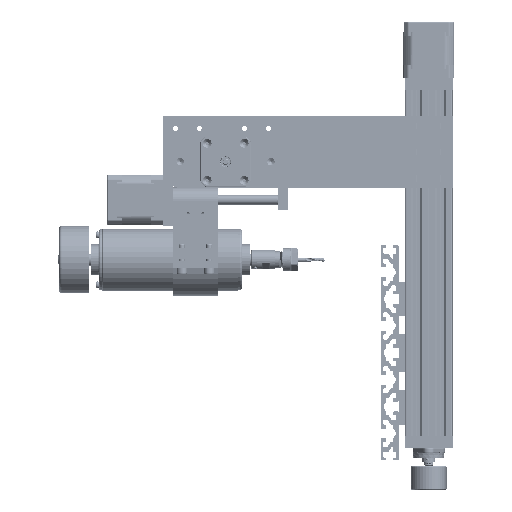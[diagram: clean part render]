
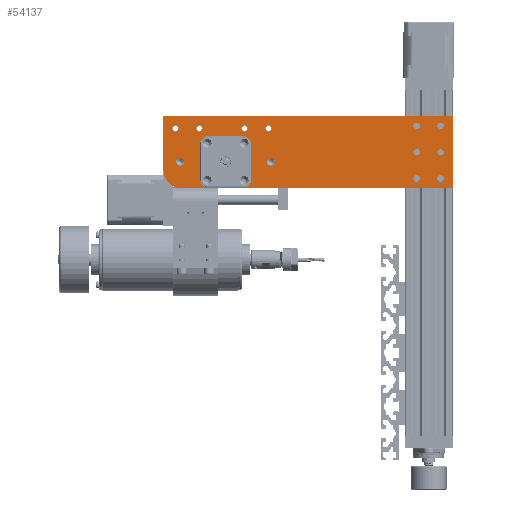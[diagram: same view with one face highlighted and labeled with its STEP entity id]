
A CAD part, left-side view. The second image highlights one B-rep face of the part: STEP entity #54137.
In plain terms, the highlighted planar face has unit normal (-1, 0, 0) as drawn and (0, 0, 1) by its records, which use the part's own axes.
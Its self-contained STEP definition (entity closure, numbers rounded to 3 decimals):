
#4239=FACE_BOUND('',#8838,.T.);
#4240=FACE_BOUND('',#8839,.T.);
#4241=FACE_BOUND('',#8840,.T.);
#4242=FACE_BOUND('',#8841,.T.);
#4243=FACE_BOUND('',#8842,.T.);
#4244=FACE_BOUND('',#8843,.T.);
#4245=FACE_BOUND('',#8844,.T.);
#4246=FACE_BOUND('',#8845,.T.);
#4247=FACE_BOUND('',#8846,.T.);
#4248=FACE_BOUND('',#8847,.T.);
#4249=FACE_BOUND('',#8848,.T.);
#4250=FACE_BOUND('',#8849,.T.);
#4251=FACE_BOUND('',#8850,.T.);
#4252=FACE_BOUND('',#8851,.T.);
#4253=FACE_BOUND('',#8852,.T.);
#4254=FACE_BOUND('',#8853,.T.);
#4255=FACE_BOUND('',#8854,.T.);
#4823=PLANE('',#58342);
#5906=FACE_OUTER_BOUND('',#8837,.T.);
#8837=EDGE_LOOP('',(#37671,#37672,#37673,#37674,#37675));
#8838=EDGE_LOOP('',(#37676));
#8839=EDGE_LOOP('',(#37677));
#8840=EDGE_LOOP('',(#37678));
#8841=EDGE_LOOP('',(#37679));
#8842=EDGE_LOOP('',(#37680));
#8843=EDGE_LOOP('',(#37681));
#8844=EDGE_LOOP('',(#37682));
#8845=EDGE_LOOP('',(#37683));
#8846=EDGE_LOOP('',(#37684));
#8847=EDGE_LOOP('',(#37685));
#8848=EDGE_LOOP('',(#37686));
#8849=EDGE_LOOP('',(#37687));
#8850=EDGE_LOOP('',(#37688));
#8851=EDGE_LOOP('',(#37689));
#8852=EDGE_LOOP('',(#37690));
#8853=EDGE_LOOP('',(#37691));
#8854=EDGE_LOOP('',(#37692));
#12471=LINE('',#77102,#16345);
#12474=LINE('',#77107,#16348);
#12477=LINE('',#77113,#16351);
#12479=LINE('',#77116,#16353);
#16345=VECTOR('',#64330,1000.);
#16348=VECTOR('',#64335,1000.);
#16351=VECTOR('',#64340,1000.);
#16353=VECTOR('',#64344,1000.);
#19440=CIRCLE('',#58299,1.7);
#19441=CIRCLE('',#58301,1.7);
#19442=CIRCLE('',#58303,1.7);
#19443=CIRCLE('',#58305,1.7);
#19444=CIRCLE('',#58307,2.75);
#19445=CIRCLE('',#58309,2.75);
#19446=CIRCLE('',#58311,2.75);
#19447=CIRCLE('',#58313,2.75);
#19448=CIRCLE('',#58315,2.75);
#19449=CIRCLE('',#58317,2.75);
#19450=CIRCLE('',#58319,2.75);
#19451=CIRCLE('',#58321,2.75);
#19452=CIRCLE('',#58323,2.75);
#19453=CIRCLE('',#58325,2.75);
#19454=CIRCLE('',#58327,11.25);
#19456=CIRCLE('',#58331,3.3);
#19459=CIRCLE('',#58336,3.3);
#19461=CIRCLE('',#58343,15.);
#21629=VERTEX_POINT('',#77020);
#21630=VERTEX_POINT('',#77024);
#21631=VERTEX_POINT('',#77028);
#21632=VERTEX_POINT('',#77032);
#21633=VERTEX_POINT('',#77036);
#21634=VERTEX_POINT('',#77040);
#21635=VERTEX_POINT('',#77044);
#21636=VERTEX_POINT('',#77048);
#21637=VERTEX_POINT('',#77052);
#21638=VERTEX_POINT('',#77056);
#21639=VERTEX_POINT('',#77060);
#21640=VERTEX_POINT('',#77064);
#21641=VERTEX_POINT('',#77068);
#21642=VERTEX_POINT('',#77072);
#21643=VERTEX_POINT('',#77076);
#21645=VERTEX_POINT('',#77084);
#21648=VERTEX_POINT('',#77094);
#21650=VERTEX_POINT('',#77100);
#21651=VERTEX_POINT('',#77101);
#21652=VERTEX_POINT('',#77106);
#21653=VERTEX_POINT('',#77110);
#21654=VERTEX_POINT('',#77112);
#27920=EDGE_CURVE('',#21629,#21629,#19440,.T.);
#27922=EDGE_CURVE('',#21630,#21630,#19441,.T.);
#27924=EDGE_CURVE('',#21631,#21631,#19442,.T.);
#27926=EDGE_CURVE('',#21632,#21632,#19443,.T.);
#27927=EDGE_CURVE('',#21633,#21633,#19444,.T.);
#27929=EDGE_CURVE('',#21634,#21634,#19445,.T.);
#27931=EDGE_CURVE('',#21635,#21635,#19446,.T.);
#27933=EDGE_CURVE('',#21636,#21636,#19447,.T.);
#27935=EDGE_CURVE('',#21637,#21637,#19448,.T.);
#27937=EDGE_CURVE('',#21638,#21638,#19449,.T.);
#27939=EDGE_CURVE('',#21639,#21639,#19450,.T.);
#27941=EDGE_CURVE('',#21640,#21640,#19451,.T.);
#27943=EDGE_CURVE('',#21641,#21641,#19452,.T.);
#27945=EDGE_CURVE('',#21642,#21642,#19453,.T.);
#27947=EDGE_CURVE('',#21643,#21643,#19454,.T.);
#27951=EDGE_CURVE('',#21645,#21645,#19456,.T.);
#27956=EDGE_CURVE('',#21648,#21648,#19459,.T.);
#27959=EDGE_CURVE('',#21650,#21651,#12471,.T.);
#27962=EDGE_CURVE('',#21652,#21650,#12474,.T.);
#27965=EDGE_CURVE('',#21654,#21653,#12477,.T.);
#27967=EDGE_CURVE('',#21651,#21654,#12479,.T.);
#27968=EDGE_CURVE('',#21653,#21652,#19461,.T.);
#37671=ORIENTED_EDGE('',*,*,#27965,.T.);
#37672=ORIENTED_EDGE('',*,*,#27968,.T.);
#37673=ORIENTED_EDGE('',*,*,#27962,.T.);
#37674=ORIENTED_EDGE('',*,*,#27959,.T.);
#37675=ORIENTED_EDGE('',*,*,#27967,.T.);
#37676=ORIENTED_EDGE('',*,*,#27920,.F.);
#37677=ORIENTED_EDGE('',*,*,#27922,.F.);
#37678=ORIENTED_EDGE('',*,*,#27924,.F.);
#37679=ORIENTED_EDGE('',*,*,#27926,.F.);
#37680=ORIENTED_EDGE('',*,*,#27927,.T.);
#37681=ORIENTED_EDGE('',*,*,#27929,.T.);
#37682=ORIENTED_EDGE('',*,*,#27931,.T.);
#37683=ORIENTED_EDGE('',*,*,#27933,.T.);
#37684=ORIENTED_EDGE('',*,*,#27935,.T.);
#37685=ORIENTED_EDGE('',*,*,#27937,.T.);
#37686=ORIENTED_EDGE('',*,*,#27939,.T.);
#37687=ORIENTED_EDGE('',*,*,#27941,.T.);
#37688=ORIENTED_EDGE('',*,*,#27943,.T.);
#37689=ORIENTED_EDGE('',*,*,#27945,.T.);
#37690=ORIENTED_EDGE('',*,*,#27947,.T.);
#37691=ORIENTED_EDGE('',*,*,#27951,.T.);
#37692=ORIENTED_EDGE('',*,*,#27956,.T.);
#54137=ADVANCED_FACE('',(#5906,#4239,#4240,#4241,#4242,#4243,#4244,#4245,
#4246,#4247,#4248,#4249,#4250,#4251,#4252,#4253,#4254,#4255),#4823,.T.);
#58299=AXIS2_PLACEMENT_3D('',#77022,#64232,#64233);
#58301=AXIS2_PLACEMENT_3D('',#77026,#64237,#64238);
#58303=AXIS2_PLACEMENT_3D('',#77030,#64242,#64243);
#58305=AXIS2_PLACEMENT_3D('',#77034,#64247,#64248);
#58307=AXIS2_PLACEMENT_3D('',#77037,#64251,#64252);
#58309=AXIS2_PLACEMENT_3D('',#77041,#64256,#64257);
#58311=AXIS2_PLACEMENT_3D('',#77045,#64261,#64262);
#58313=AXIS2_PLACEMENT_3D('',#77049,#64266,#64267);
#58315=AXIS2_PLACEMENT_3D('',#77053,#64271,#64272);
#58317=AXIS2_PLACEMENT_3D('',#77057,#64276,#64277);
#58319=AXIS2_PLACEMENT_3D('',#77061,#64281,#64282);
#58321=AXIS2_PLACEMENT_3D('',#77065,#64286,#64287);
#58323=AXIS2_PLACEMENT_3D('',#77069,#64291,#64292);
#58325=AXIS2_PLACEMENT_3D('',#77073,#64296,#64297);
#58327=AXIS2_PLACEMENT_3D('',#77077,#64301,#64302);
#58331=AXIS2_PLACEMENT_3D('',#77085,#64311,#64312);
#58336=AXIS2_PLACEMENT_3D('',#77095,#64323,#64324);
#58342=AXIS2_PLACEMENT_3D('',#77117,#64345,#64346);
#58343=AXIS2_PLACEMENT_3D('',#77118,#64347,#64348);
#64232=DIRECTION('center_axis',(0.,0.,1.));
#64233=DIRECTION('ref_axis',(1.,0.,0.));
#64237=DIRECTION('center_axis',(0.,0.,1.));
#64238=DIRECTION('ref_axis',(1.,0.,0.));
#64242=DIRECTION('center_axis',(0.,0.,1.));
#64243=DIRECTION('ref_axis',(1.,0.,0.));
#64247=DIRECTION('center_axis',(0.,0.,1.));
#64248=DIRECTION('ref_axis',(1.,0.,0.));
#64251=DIRECTION('center_axis',(0.,0.,-1.));
#64252=DIRECTION('ref_axis',(-1.,0.,0.));
#64256=DIRECTION('center_axis',(0.,0.,-1.));
#64257=DIRECTION('ref_axis',(-1.,0.,0.));
#64261=DIRECTION('center_axis',(0.,0.,-1.));
#64262=DIRECTION('ref_axis',(-1.,0.,0.));
#64266=DIRECTION('center_axis',(0.,0.,-1.));
#64267=DIRECTION('ref_axis',(-1.,0.,0.));
#64271=DIRECTION('center_axis',(0.,0.,-1.));
#64272=DIRECTION('ref_axis',(-1.,0.,0.));
#64276=DIRECTION('center_axis',(0.,0.,-1.));
#64277=DIRECTION('ref_axis',(-1.,0.,0.));
#64281=DIRECTION('center_axis',(0.,0.,-1.));
#64282=DIRECTION('ref_axis',(-1.,0.,0.));
#64286=DIRECTION('center_axis',(0.,0.,-1.));
#64287=DIRECTION('ref_axis',(-1.,0.,0.));
#64291=DIRECTION('center_axis',(0.,0.,-1.));
#64292=DIRECTION('ref_axis',(-1.,0.,0.));
#64296=DIRECTION('center_axis',(0.,0.,-1.));
#64297=DIRECTION('ref_axis',(-1.,0.,0.));
#64301=DIRECTION('center_axis',(0.,0.,-1.));
#64302=DIRECTION('ref_axis',(-1.,0.,0.));
#64311=DIRECTION('center_axis',(0.,0.,-1.));
#64312=DIRECTION('ref_axis',(-1.,0.,0.));
#64323=DIRECTION('center_axis',(0.,0.,-1.));
#64324=DIRECTION('ref_axis',(-1.,0.,0.));
#64330=DIRECTION('',(1.,0.,0.));
#64335=DIRECTION('',(0.,-1.,0.));
#64340=DIRECTION('',(-1.,0.,0.));
#64344=DIRECTION('',(0.,1.,0.));
#64345=DIRECTION('center_axis',(0.,0.,1.));
#64346=DIRECTION('ref_axis',(1.,0.,0.));
#64347=DIRECTION('center_axis',(0.,0.,1.));
#64348=DIRECTION('ref_axis',(1.,0.,0.));
#77020=CARTESIAN_POINT('',(-25.2,84.5,0.));
#77022=CARTESIAN_POINT('Origin',(-23.5,84.5,0.));
#77024=CARTESIAN_POINT('',(5.8,84.5,0.));
#77026=CARTESIAN_POINT('Origin',(7.5,84.5,0.));
#77028=CARTESIAN_POINT('',(5.8,53.5,0.));
#77030=CARTESIAN_POINT('Origin',(7.5,53.5,0.));
#77032=CARTESIAN_POINT('',(-25.2,53.5,0.));
#77034=CARTESIAN_POINT('Origin',(-23.5,53.5,0.));
#77036=CARTESIAN_POINT('',(22.75,111.,0.));
#77037=CARTESIAN_POINT('Origin',(20.,111.,0.));
#77040=CARTESIAN_POINT('',(22.75,53.,0.));
#77041=CARTESIAN_POINT('Origin',(20.,53.,0.));
#77044=CARTESIAN_POINT('',(24.75,-111.,0.));
#77045=CARTESIAN_POINT('Origin',(22.,-111.,0.));
#77048=CARTESIAN_POINT('',(24.75,-91.,0.));
#77049=CARTESIAN_POINT('Origin',(22.,-91.,0.));
#77052=CARTESIAN_POINT('',(-19.25,-111.,0.));
#77053=CARTESIAN_POINT('Origin',(-22.,-111.,0.));
#77056=CARTESIAN_POINT('',(-19.25,-91.,0.));
#77057=CARTESIAN_POINT('Origin',(-22.,-91.,0.));
#77060=CARTESIAN_POINT('',(2.75,-91.,0.));
#77061=CARTESIAN_POINT('Origin',(0.,-91.,0.));
#77064=CARTESIAN_POINT('',(2.75,-111.,0.));
#77065=CARTESIAN_POINT('Origin',(0.,-111.,0.));
#77068=CARTESIAN_POINT('',(22.75,33.,0.));
#77069=CARTESIAN_POINT('Origin',(20.,33.,0.));
#77072=CARTESIAN_POINT('',(22.75,91.,0.));
#77073=CARTESIAN_POINT('Origin',(20.,91.,0.));
#77076=CARTESIAN_POINT('',(3.25,69.,0.));
#77077=CARTESIAN_POINT('Origin',(-8.,69.,0.));
#77084=CARTESIAN_POINT('',(-4.7,107.,0.));
#77085=CARTESIAN_POINT('Origin',(-8.,107.,0.));
#77094=CARTESIAN_POINT('',(-4.7,31.,0.));
#77095=CARTESIAN_POINT('Origin',(-8.,31.,0.));
#77100=CARTESIAN_POINT('',(-30.,-121.,0.));
#77101=CARTESIAN_POINT('',(30.,-121.,0.));
#77102=CARTESIAN_POINT('',(-30.,-121.,0.));
#77106=CARTESIAN_POINT('',(-30.,106.,0.));
#77107=CARTESIAN_POINT('',(-30.,121.,0.));
#77110=CARTESIAN_POINT('',(-15.,121.,0.));
#77112=CARTESIAN_POINT('',(30.,121.,0.));
#77113=CARTESIAN_POINT('',(30.,121.,0.));
#77116=CARTESIAN_POINT('',(30.,-121.,0.));
#77117=CARTESIAN_POINT('Origin',(0.,0.,0.));
#77118=CARTESIAN_POINT('Origin',(-15.,106.,0.));
